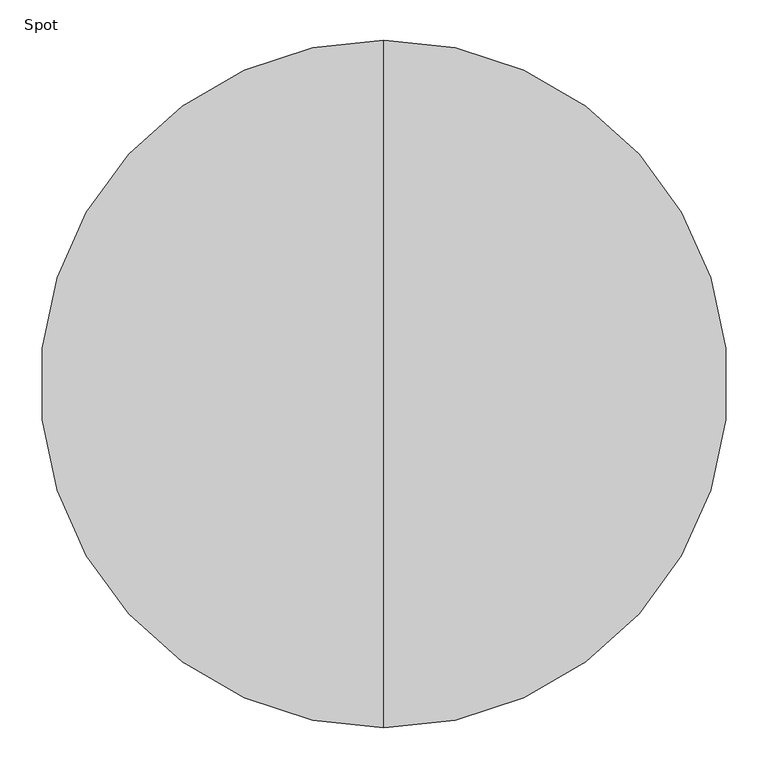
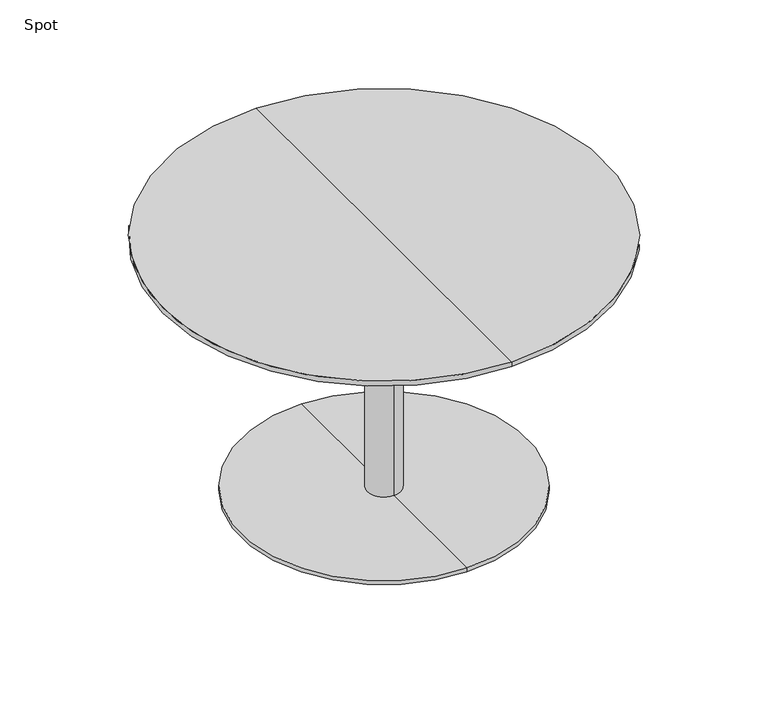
"""IFC4 building model written with IfcOpenShell, lengths in millimetres: furniture geometry, Spot : ø85x52."""

from ifc_helpers import new_model, si_unit, frame, origin, place, context, project, spatial, polyline, circle_curve, source, transform, mapped, element, save
from ifc_brep_helpers import plane_surface, cylinder_surface, revolved_surface, advanced_brep


def spot_dc493906(model_context):
    return source(origin(), model_context, "Body", "AdvancedBrep", [
        advanced_brep(
        [(0.0, -425.0, 520.0), (0.0, 425.0, 520.0), (0.0, 0.0, 520.0), (0.0, 425.0, 510.25), (0.0, -425.0, 510.25), (0.0, 0.0, 498.0), (0.0, -379.2823776, 498.0), (0.0, 379.2823776, 498.0)],
        [
            (0, 1, circle_curve(frame((0.0, 0.0, 520.0), z_axis=(0.0, 0.0, 1.0), x_axis=(0.0, -1.0, 0.0)), 425.0)),
            (1, 2),
            (2, 0),
            (3, 4, circle_curve(frame((0.0, 0.0, 510.25), z_axis=(0.0, 0.0, 1.0), x_axis=(0.0, -1.0, 0.0)), 425.0)),
            (4, 0),
            (0, 1, circle_curve(frame((0.0, 0.0, 520.0), z_axis=(0.0, 0.0, -1.0), x_axis=(0.0, -1.0, 0.0)), 425.0)),
            (1, 3),
            (5, 6),
            (6, 7, circle_curve(frame((0.0, 0.0, 498.0), z_axis=(0.0, 0.0, -1.0), x_axis=(0.0, -1.0, 0.0)), 379.2823776)),
            (7, 5),
            (7, 6, circle_curve(frame((0.0, 0.0, 498.0), z_axis=(0.0, 0.0, -1.0), x_axis=(0.0, -1.0, 0.0)), 379.2823776)),
            (4, 3, circle_curve(frame((0.0, 0.0, 510.25), z_axis=(0.0, 0.0, 1.0), x_axis=(0.0, -1.0, 0.0)), 425.0)),
            (6, 4),
            (3, 7),
        ],
        [
            plane_surface(frame((0.0, 0.0, 520.0), z_axis=(0.0, 0.0, 1.0), x_axis=(0.0, -1.0, 0.0))),
            cylinder_surface(frame((0.0, 0.0, 600.0), z_axis=(0.0, 0.0, -1.0), x_axis=(0.0, -1.0, 0.0)), 425.0),
            plane_surface(frame((0.0, 0.0, 498.0), z_axis=(0.0, 0.0, -1.0), x_axis=(0.0, -1.0, 0.0))),
            revolved_surface(polyline([(0.0, -425.0, 510.25), (0.0, -379.2823776, 498.0)]), (0.0, 0.0, 600.0), (0.0, 0.0, -1.0)),
        ],
        [
            (0, [[1, 2, 3]]),
            (1, [[4, 5, 6, 7]]),
            (2, [[8, 9, 10]]),
            (2, [[-10, 11, -8]]),
            (0, [[-6, -3, -2]]),
            (1, [[12, -7, -1, -5]]),
            (3, [[-9, 13, -4, 14]]),
            (3, [[-11, -14, -12, -13]]),
        ],
    ),
        advanced_brep(
        [(0.0, 32.0, 10.0), (0.0, -32.0, 10.0), (0.0, -32.0, 467.406916), (0.0, 32.0, 467.406916), (0.0, 275.0, 10.0), (0.0, -275.0, 10.0), (0.0, 275.0, 2.0), (0.0, -275.0, 2.0), (0.0, 0.0, 2.0), (0.0, 150.0, 498.0), (0.0, -150.0, 498.0), (0.0, 0.0, 498.0), (0.0, 150.0, 486.7213673), (0.0, -150.0, 486.7213673)],
        [
            (0, 1, circle_curve(frame((0.0, 0.0, 10.0), z_axis=(0.0, 0.0, 1.0), x_axis=(0.0, -1.0, 0.0)), 32.0)),
            (1, 2),
            (2, 3, circle_curve(frame((0.0, 0.0, 467.406916), z_axis=(0.0, 0.0, -1.0), x_axis=(0.0, -1.0, 0.0)), 32.0)),
            (3, 0),
            (1, 0, circle_curve(frame((0.0, 0.0, 10.0), z_axis=(0.0, 0.0, 1.0), x_axis=(0.0, -1.0, 0.0)), 32.0)),
            (3, 2, circle_curve(frame((0.0, 0.0, 467.406916), z_axis=(0.0, 0.0, -1.0), x_axis=(0.0, -1.0, 0.0)), 32.0)),
            (4, 5, circle_curve(frame((0.0, 0.0, 10.0), z_axis=(0.0, 0.0, 1.0), x_axis=(0.0, -1.0, 0.0)), 275.0)),
            (5, 1),
            (0, 4),
            (5, 4, circle_curve(frame((0.0, 0.0, 10.0), z_axis=(0.0, 0.0, 1.0), x_axis=(0.0, -1.0, 0.0)), 275.0)),
            (6, 7, circle_curve(frame((0.0, 0.0, 2.0), z_axis=(0.0, 0.0, 1.0), x_axis=(0.0, -1.0, 0.0)), 275.0)),
            (7, 5),
            (4, 6),
            (7, 6, circle_curve(frame((0.0, 0.0, 2.0), z_axis=(0.0, 0.0, 1.0), x_axis=(0.0, -1.0, 0.0)), 275.0)),
            (8, 7),
            (6, 8),
            (9, 10, circle_curve(frame((0.0, 0.0, 498.0), z_axis=(0.0, 0.0, 1.0), x_axis=(0.0, -1.0, 0.0)), 150.0)),
            (10, 11),
            (11, 9),
            (10, 9, circle_curve(frame((0.0, 0.0, 498.0), z_axis=(0.0, 0.0, 1.0), x_axis=(0.0, -1.0, 0.0)), 150.0)),
            (12, 13, circle_curve(frame((0.0, 0.0, 486.7213673), z_axis=(0.0, 0.0, 1.0), x_axis=(0.0, -1.0, 0.0)), 150.0)),
            (13, 10),
            (9, 12),
            (13, 12, circle_curve(frame((0.0, 0.0, 486.7213673), z_axis=(0.0, 0.0, 1.0), x_axis=(0.0, -1.0, 0.0)), 150.0)),
            (2, 13),
            (12, 3),
        ],
        [
            cylinder_surface(frame((0.0, 0.0, 860.0), z_axis=(0.0, 0.0, -1.0), x_axis=(0.0, -1.0, 0.0)), 32.0),
            plane_surface(frame((0.0, 0.0, 10.0), z_axis=(0.0, 0.0, 1.0), x_axis=(0.0, -1.0, 0.0))),
            cylinder_surface(frame((0.0, 0.0, 860.0), z_axis=(0.0, 0.0, -1.0), x_axis=(0.0, -1.0, 0.0)), 275.0),
            plane_surface(frame((0.0, 0.0, 2.0), z_axis=(0.0, 0.0, -1.0), x_axis=(0.0, -1.0, 0.0))),
            plane_surface(frame((0.0, 0.0, 498.0), z_axis=(0.0, 0.0, 1.0), x_axis=(0.0, -1.0, 0.0))),
            cylinder_surface(frame((0.0, 0.0, 860.0), z_axis=(0.0, 0.0, -1.0), x_axis=(0.0, -1.0, 0.0)), 150.0),
            revolved_surface(polyline([(0.0, -150.0, 486.7213673), (0.0, -32.0, 467.406916)]), (0.0, 0.0, 860.0), (0.0, 0.0, -1.0)),
        ],
        [
            (0, [[1, 2, 3, 4]]),
            (0, [[5, -4, 6, -2]]),
            (1, [[7, 8, -1, 9]]),
            (1, [[10, -9, -5, -8]]),
            (2, [[11, 12, -7, 13]]),
            (2, [[14, -13, -10, -12]]),
            (3, [[15, -11, 16]]),
            (3, [[-16, -14, -15]]),
            (4, [[17, 18, 19]]),
            (4, [[20, -19, -18]]),
            (5, [[21, 22, -17, 23]]),
            (5, [[24, -23, -20, -22]]),
            (6, [[-3, 25, -21, 26]]),
            (6, [[-6, -26, -24, -25]]),
        ],
    ),
    ])


if __name__ == "__main__":
    model = new_model("IFC4")
    model_context = context("Model", 3, world=origin())
    ifc_project = project(units=[si_unit("LENGTHUNIT", "METRE", prefix="MILLI")], contexts=[model_context])
    site = spatial("IfcSite", under=ifc_project)
    building = spatial("IfcBuilding", under=site)
    placement = place(None, origin())
    spot_shape = spot_dc493906(model_context)
    element("IfcFurniture", 1, ObjectType="Spot : ø85x52", at=placement, inside=building, context=model_context, shape_type="MappedRepresentation", body=[
        mapped(spot_shape, transform((0.0, 0.0, 0.0), x_axis=(1.0, 0.0, 0.0), y_axis=(0.0, 1.0, 0.0), z_axis=(0.0, 0.0, 1.0))),
    ])
    save(model, "model.ifc")
